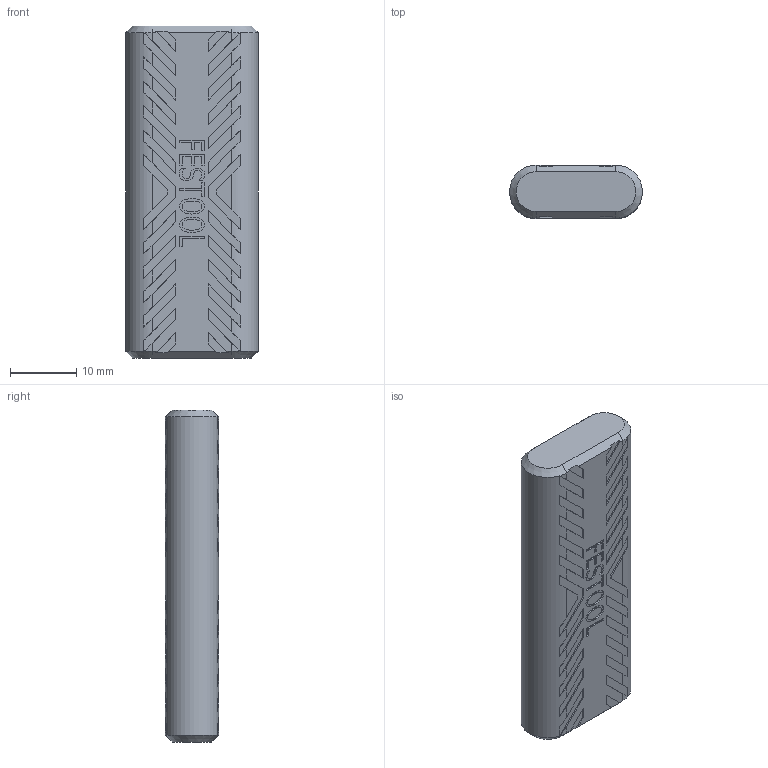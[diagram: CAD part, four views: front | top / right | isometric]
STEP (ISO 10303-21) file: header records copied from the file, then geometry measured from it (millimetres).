
FILE_DESCRIPTION(('Creo Elements/Direct Modeling STEP Export'),'2;1');
FILE_NAME('Domino_8x50.stp','2024-01-19T 8:05:38',(''),(''),'Creo Elements/Direct Modeling STEP processor for AP214 (Solid Model)','Creo Elements/Direct Modeling 20.5A 14-Oct-2022 (C) Parametric Technology GmbH','');
FILE_SCHEMA(('AUTOMOTIVE_DESIGN { 1 0 10303 214 1 1 1 1 }'));
Length unit declared in the file: millimetre
Products named in the file (1): 8x50_00464310
Bounding box: 19.97 x 8 x 50 mm (x, y, z)
Volume: 7180.5 mm3; surface area: 2883.8 mm2
Topology: 1 solids, 1 shells, 808 faces, 2335 edges, 1554 vertices
Faces by surface type: plane 794, cylinder 10, cone 4
Entity records: 25545 total; most frequent: CARTESIAN_POINT 4722, ORIENTED_EDGE 4670, DIRECTION 3813, EDGE_CURVE 2335, VECTOR 2107, LINE 2107, VERTEX_POINT 1554, AXIS2_PLACEMENT_3D 853
